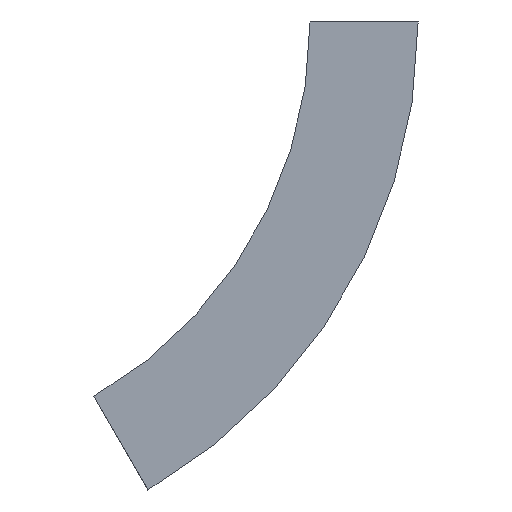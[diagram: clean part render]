
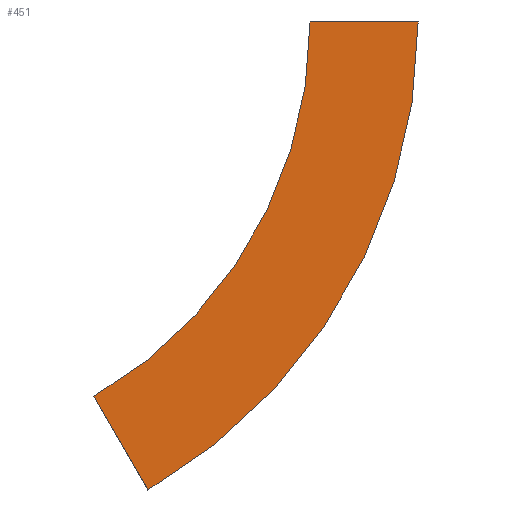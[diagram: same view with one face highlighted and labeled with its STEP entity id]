
A CAD part, left-side view. The second image highlights one B-rep face of the part: STEP entity #451.
In plain terms, the highlighted planar face has unit normal (-1, 0, 0) as drawn and (1, 0, 0) by its records, which use the part's own axes.
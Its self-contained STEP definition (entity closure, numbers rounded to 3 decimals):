
#4 = AXIS2_PLACEMENT_3D ( 'NONE', #486, #537, #48 ) ;
#10 = LINE ( 'NONE', #349, #500 ) ;
#25 = DIRECTION ( 'NONE',  ( 1., 0., 0. ) ) ;
#26 = ORIENTED_EDGE ( 'NONE', *, *, #304, .T. ) ;
#48 = DIRECTION ( 'NONE',  ( 0., -1., 0. ) ) ;
#56 = VERTEX_POINT ( 'NONE', #384 ) ;
#62 = EDGE_LOOP ( 'NONE', ( #517, #545, #26, #412 ) ) ;
#83 = DIRECTION ( 'NONE',  ( 0., 0., 1. ) ) ;
#98 = CIRCLE ( 'NONE', #425, 375. ) ;
#118 = CARTESIAN_POINT ( 'NONE',  ( 0., 150., -259.808 ) ) ;
#145 = VECTOR ( 'NONE', #228, 1000. ) ;
#171 = AXIS2_PLACEMENT_3D ( 'NONE', #311, #393, #83 ) ;
#181 = VERTEX_POINT ( 'NONE', #118 ) ;
#211 = CIRCLE ( 'NONE', #4, 300. ) ;
#228 = DIRECTION ( 'NONE',  ( 0., 1., 0. ) ) ;
#247 = CARTESIAN_POINT ( 'NONE',  ( 0., 300., 0. ) ) ;
#268 = PLANE ( 'NONE',  #171 ) ;
#277 = LINE ( 'NONE', #454, #145 ) ;
#304 = EDGE_CURVE ( 'NONE', #56, #339, #98, .T. ) ;
#307 = VERTEX_POINT ( 'NONE', #423 ) ;
#311 = CARTESIAN_POINT ( 'NONE',  ( 0., -75., 0. ) ) ;
#339 = VERTEX_POINT ( 'NONE', #478 ) ;
#349 = CARTESIAN_POINT ( 'NONE',  ( 0., 112.5, -324.76 ) ) ;
#378 = DIRECTION ( 'NONE',  ( 0., -1., 0. ) ) ;
#384 = CARTESIAN_POINT ( 'NONE',  ( 0., -75., 0. ) ) ;
#393 = DIRECTION ( 'NONE',  ( -1., 0., 0. ) ) ;
#412 = ORIENTED_EDGE ( 'NONE', *, *, #507, .T. ) ;
#423 = CARTESIAN_POINT ( 'NONE',  ( 0., 0., 0. ) ) ;
#425 = AXIS2_PLACEMENT_3D ( 'NONE', #247, #25, #378 ) ;
#426 = EDGE_CURVE ( 'NONE', #56, #307, #277, .T. ) ;
#437 = FACE_OUTER_BOUND ( 'NONE', #62, .T. ) ;
#451 = ADVANCED_FACE ( 'NONE', ( #437 ), #268, .F. ) ;
#454 = CARTESIAN_POINT ( 'NONE',  ( 0., -75., 0. ) ) ;
#478 = CARTESIAN_POINT ( 'NONE',  ( 0., 112.5, -324.76 ) ) ;
#479 = DIRECTION ( 'NONE',  ( 0., 0.5, 0.866 ) ) ;
#486 = CARTESIAN_POINT ( 'NONE',  ( 0., 300., 0. ) ) ;
#500 = VECTOR ( 'NONE', #479, 1000. ) ;
#507 = EDGE_CURVE ( 'NONE', #339, #181, #10, .T. ) ;
#517 = ORIENTED_EDGE ( 'NONE', *, *, #531, .F. ) ;
#531 = EDGE_CURVE ( 'NONE', #307, #181, #211, .T. ) ;
#537 = DIRECTION ( 'NONE',  ( 1., 0., 0. ) ) ;
#545 = ORIENTED_EDGE ( 'NONE', *, *, #426, .F. ) ;
